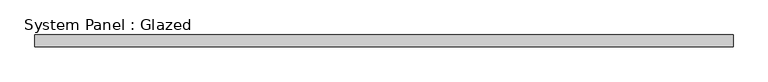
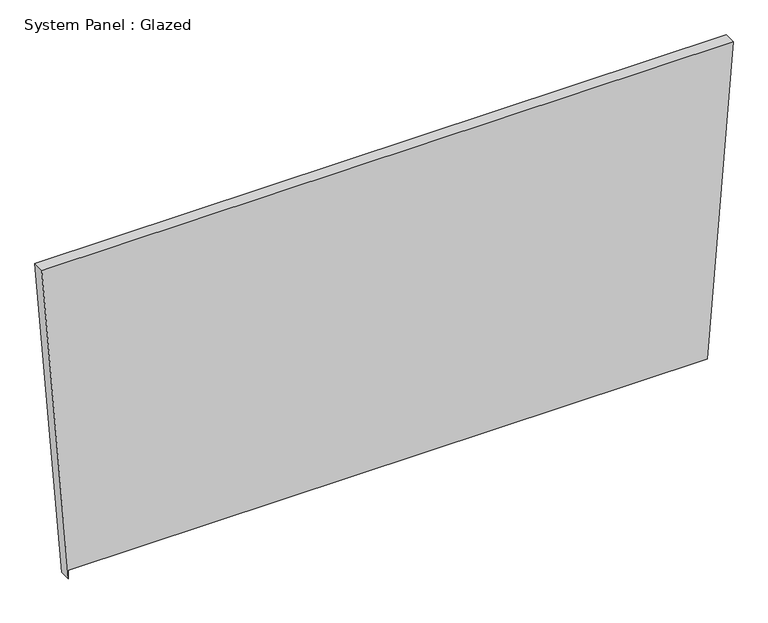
"""IFC4 building model written with IfcOpenShell, lengths in millimetres: plate geometry, System Panel : Glazed."""

from ifc_helpers import new_model, si_unit, frame, origin, place, context, project, spatial, polyline, outline, extrude, source, transform, mapped, element, save


def system_panel_glazed_f43337e1(model_context):
    return source(origin(), model_context, "Body", "SweptSolid", [
        extrude(outline(polyline([(0.0, -686.7161732), (19.05, -686.7160716), (19.0426676, 688.2315496), (722.621222, 744.2177701), (722.6222827, -744.2177701), (0.0, -686.7161732)])), frame((0.0, 19.05, 0.0), z_axis=(0.0, 1.0, 0.0), x_axis=(0.0, 0.0, 1.0)), (0.0, 0.0, 1.0), 25.4),
    ])


if __name__ == "__main__":
    model = new_model("IFC4")
    model_context = context("Model", 3, world=origin())
    ifc_project = project(units=[si_unit("LENGTHUNIT", "METRE", prefix="MILLI")], contexts=[model_context])
    site = spatial("IfcSite", under=ifc_project)
    building = spatial("IfcBuilding", under=site)
    placement = place(None, origin())
    system_panel_glazed_shape = system_panel_glazed_f43337e1(model_context)
    element("IfcPlate", 1, ObjectType="System Panel : Glazed", at=placement, inside=building, context=model_context, shape_type="MappedRepresentation", body=[
        mapped(system_panel_glazed_shape, transform((0.0, 0.0, 0.0), x_axis=(1.0, 0.0, 0.0), y_axis=(0.0, 1.0, 0.0), z_axis=(0.0, 0.0, 1.0))),
    ])
    save(model, "model.ifc")
